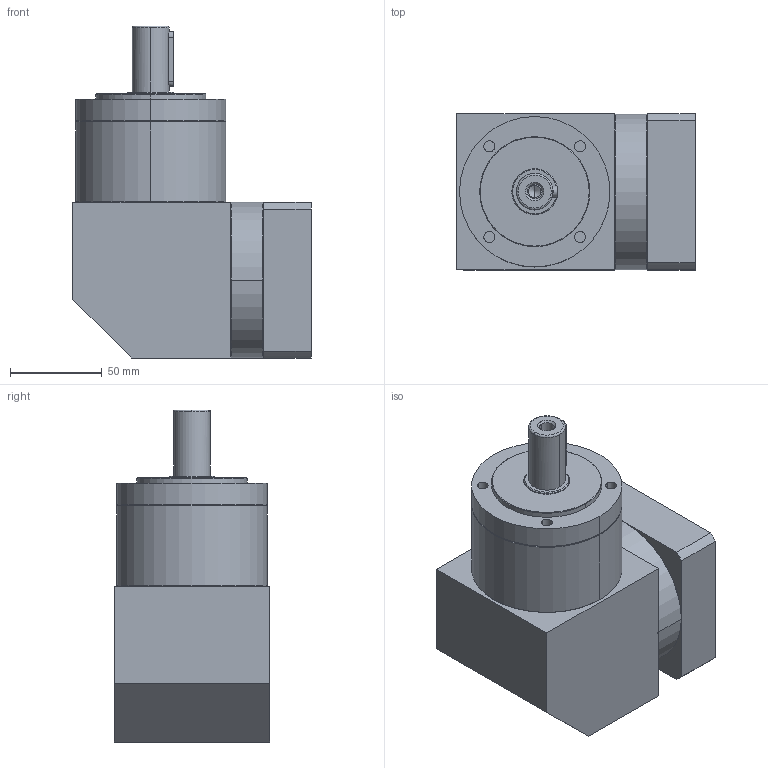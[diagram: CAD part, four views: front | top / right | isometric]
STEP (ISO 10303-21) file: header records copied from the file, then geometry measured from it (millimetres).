
FILE_DESCRIPTION((''),'2;1');
FILE_NAME('ASM0096_ASM','2017-07-19T',('Administrator'),(''),'PRO/ENGINEER BY PARAMETRIC TECHNOLOGY CORPORATION, 2013230','PRO/ENGINEER BY PARAMETRIC TECHNOLOGY CORPORATION, 2013230','');
FILE_SCHEMA(('CONFIG_CONTROL_DESIGN'));
Length unit declared in the file: millimetre
Products named in the file (12): PRT0234; PRT0235; PRT0236; PRT0237; ASM0154_ASM; ZER80-19_ASM; PRT0238; PRT0241; PRT0242; ASM0158_ASM; ASM0157_ASM; ASM0096_ASM
Assembly tree (11 placements, depth 4):
  ASM0096_ASM
    ZER80-19_ASM
      ASM0154_ASM
        PRT0234
        PRT0235
        PRT0236
        PRT0237
    PRT0238
    ASM0157_ASM
      ASM0158_ASM
        PRT0241
        PRT0242
Bounding box: 130 x 85 x 181 mm (x, y, z)
Volume: 900170.2 mm3; surface area: 145129.2 mm2
Topology: 7 solids, 7 shells, 148 faces, 349 edges, 220 vertices
Faces by surface type: cylinder 68, plane 47, cone 28, torus 5
Entity records: 4688 total; most frequent: DIRECTION 866, CARTESIAN_POINT 862, ORIENTED_EDGE 678, AXIS2_PLACEMENT_3D 360, EDGE_CURVE 339, VERTEX_POINT 220, EDGE_LOOP 181, CIRCLE 181
